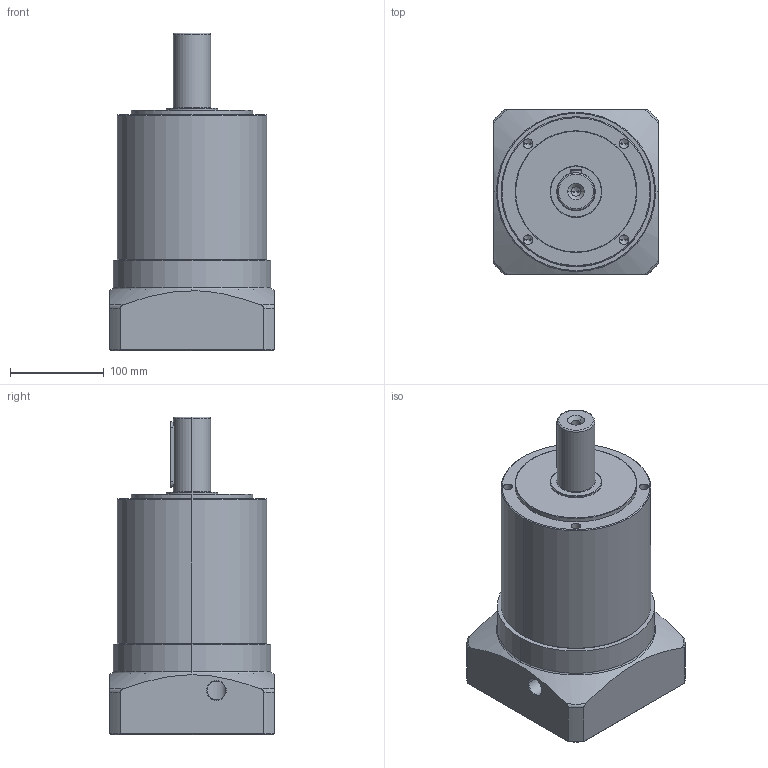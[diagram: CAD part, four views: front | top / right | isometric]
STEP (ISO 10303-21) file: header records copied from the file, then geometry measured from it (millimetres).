
FILE_DESCRIPTION (( 'STEP AP214' ), '1' );
FILE_NAME ('PL160-L2-35×80-114.3-200M12 三维零件图.STEP', '2021-08-06T06:20:41', ( 'XJJ' ), ( '' ), 'SwSTEP 2.0', 'SolidWorks 2016', '' );
FILE_SCHEMA (( 'AUTOMOTIVE_DESIGN' ));
Length unit declared in the file: millimetre
Products named in the file (3): hexagon socket head cap screws gb_GB_FASTENER_SCREWS_HSHCS M10X16-N; PL160-L2-35×80-114.3-200M12 三维外形图; PL160-L2-35×80-114.3-200M12 三维零件图
Assembly tree (2 placements, depth 2):
  PL160-L2-35×80-114.3-200M12 三维零件图
    PL160-L2-35×80-114.3-200M12 三维外形图
    hexagon socket head cap screws gb_GB_FASTENER_SCREWS_HSHCS M10X16-N
Bounding box: 176 x 176 x 339 mm (x, y, z)
Volume: 5435179.6 mm3; surface area: 255025.1 mm2
Topology: 2 solids, 2 shells, 178 faces, 414 edges, 240 vertices
Faces by surface type: cylinder 62, cone 48, plane 41, torus 27
Entity records: 5885 total; most frequent: CARTESIAN_POINT 1478, DIRECTION 920, ORIENTED_EDGE 788, EDGE_CURVE 394, AXIS2_PLACEMENT_3D 383, VERTEX_POINT 240, EDGE_LOOP 206, CIRCLE 200
